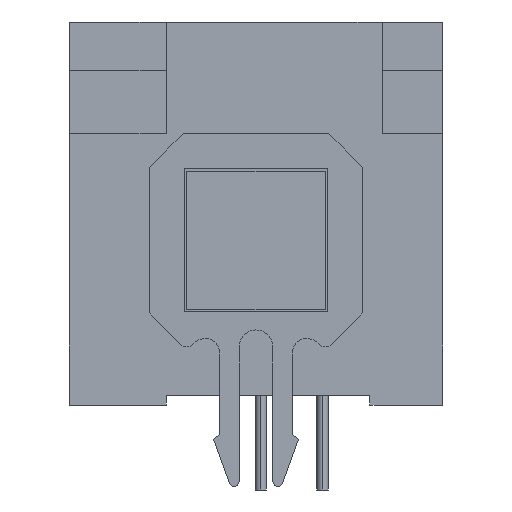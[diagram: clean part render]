
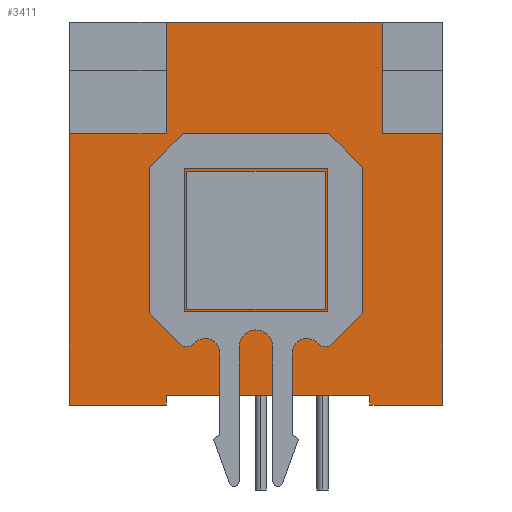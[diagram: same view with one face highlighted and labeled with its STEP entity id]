
A CAD part, left-side view. The second image highlights one B-rep face of the part: STEP entity #3411.
In plain terms, the highlighted planar face has unit normal (-1, 0, 0).
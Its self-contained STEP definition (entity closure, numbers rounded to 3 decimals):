
#29=DIRECTION('',(0.,0.,1.));
#30=VECTOR('',#29,11.2);
#31=CARTESIAN_POINT('',(-6.5,-7.7,-7.8));
#32=LINE('',#31,#30);
#121=DIRECTION('',(0.,-1.,0.));
#122=VECTOR('',#121,4.);
#123=CARTESIAN_POINT('',(-6.5,7.7,-7.8));
#124=LINE('',#123,#122);
#169=DIRECTION('',(0.,-1.,0.));
#170=VECTOR('',#169,3.);
#171=CARTESIAN_POINT('',(-6.5,-4.7,-7.8));
#172=LINE('',#171,#170);
#189=DIRECTION('',(0.,1.,0.));
#190=VECTOR('',#189,8.4);
#191=CARTESIAN_POINT('',(-6.5,-4.7,-7.4));
#192=LINE('',#191,#190);
#193=DIRECTION('',(0.,0.,1.));
#194=VECTOR('',#193,0.4);
#195=CARTESIAN_POINT('',(-6.5,3.7,-7.8));
#196=LINE('',#195,#194);
#197=DIRECTION('',(0.,-1.,0.));
#198=VECTOR('',#197,4.);
#199=CARTESIAN_POINT('',(-6.5,7.7,3.4));
#200=LINE('',#199,#198);
#201=DIRECTION('',(0.,0.,1.));
#202=VECTOR('',#201,4.6);
#203=CARTESIAN_POINT('',(-6.5,3.7,3.4));
#204=LINE('',#203,#202);
#205=DIRECTION('',(0.,0.,-1.));
#206=VECTOR('',#205,4.6);
#207=CARTESIAN_POINT('',(-6.5,-5.2,8.));
#208=LINE('',#207,#206);
#209=DIRECTION('',(0.,-1.,0.));
#210=VECTOR('',#209,2.5);
#211=CARTESIAN_POINT('',(-6.5,-5.2,3.4));
#212=LINE('',#211,#210);
#213=DIRECTION('',(0.,0.,1.));
#214=VECTOR('',#213,0.4);
#215=CARTESIAN_POINT('',(-6.5,-4.7,-7.8));
#216=LINE('',#215,#214);
#225=DIRECTION('',(0.,-1.,0.));
#226=VECTOR('',#225,5.7);
#227=CARTESIAN_POINT('',(-6.5,2.85,1.85));
#228=LINE('',#227,#226);
#229=DIRECTION('',(0.,0.,-1.));
#230=VECTOR('',#229,5.7);
#231=CARTESIAN_POINT('',(-6.5,-2.85,1.85));
#232=LINE('',#231,#230);
#237=DIRECTION('',(0.,1.,0.));
#238=VECTOR('',#237,5.7);
#239=CARTESIAN_POINT('',(-6.5,-2.85,-3.85));
#240=LINE('',#239,#238);
#245=DIRECTION('',(0.,0.,1.));
#246=VECTOR('',#245,5.7);
#247=CARTESIAN_POINT('',(-6.5,2.85,-3.85));
#248=LINE('',#247,#246);
#921=DIRECTION('',(0.,1.,0.));
#922=VECTOR('',#921,8.9);
#923=CARTESIAN_POINT('',(-6.5,-5.2,8.));
#924=LINE('',#923,#922);
#969=DIRECTION('',(0.,0.,-1.));
#970=VECTOR('',#969,11.2);
#971=CARTESIAN_POINT('',(-6.5,7.7,3.4));
#972=LINE('',#971,#970);
#2855=CARTESIAN_POINT('',(-6.5,-7.7,-7.8));
#2856=CARTESIAN_POINT('',(-6.5,-7.7,3.4));
#2857=VERTEX_POINT('',#2855);
#2858=VERTEX_POINT('',#2856);
#2859=CARTESIAN_POINT('',(-6.5,-5.2,8.));
#2860=CARTESIAN_POINT('',(-6.5,3.7,8.));
#2861=VERTEX_POINT('',#2859);
#2862=VERTEX_POINT('',#2860);
#2863=CARTESIAN_POINT('',(-6.5,7.7,3.4));
#2864=CARTESIAN_POINT('',(-6.5,7.7,-7.8));
#2865=VERTEX_POINT('',#2863);
#2866=VERTEX_POINT('',#2864);
#2867=CARTESIAN_POINT('',(-6.5,3.7,3.4));
#2868=VERTEX_POINT('',#2867);
#2869=CARTESIAN_POINT('',(-6.5,-5.2,3.4));
#2870=VERTEX_POINT('',#2869);
#2895=CARTESIAN_POINT('',(-6.5,2.85,-3.85));
#2896=CARTESIAN_POINT('',(-6.5,2.85,1.85));
#2897=VERTEX_POINT('',#2895);
#2898=VERTEX_POINT('',#2896);
#2899=CARTESIAN_POINT('',(-6.5,-2.85,1.85));
#2900=CARTESIAN_POINT('',(-6.5,-2.85,-3.85));
#2901=VERTEX_POINT('',#2899);
#2902=VERTEX_POINT('',#2900);
#3031=CARTESIAN_POINT('',(-6.5,3.7,-7.8));
#3033=VERTEX_POINT('',#3031);
#3049=CARTESIAN_POINT('',(-6.5,-4.7,-7.4));
#3050=CARTESIAN_POINT('',(-6.5,3.7,-7.4));
#3051=VERTEX_POINT('',#3049);
#3052=VERTEX_POINT('',#3050);
#3053=CARTESIAN_POINT('',(-6.5,-4.7,-7.8));
#3054=VERTEX_POINT('',#3053);
#3374=CARTESIAN_POINT('',(-6.5,0.,0.));
#3375=DIRECTION('',(1.,0.,0.));
#3376=DIRECTION('',(0.,1.,0.));
#3377=AXIS2_PLACEMENT_3D('',#3374,#3375,#3376);
#3378=PLANE('',#3377);
#3380=ORIENTED_EDGE('',*,*,#3379,.T.);
#3381=ORIENTED_EDGE('',*,*,#3335,.F.);
#3382=ORIENTED_EDGE('',*,*,#3248,.F.);
#3384=ORIENTED_EDGE('',*,*,#3383,.F.);
#3386=ORIENTED_EDGE('',*,*,#3385,.T.);
#3388=ORIENTED_EDGE('',*,*,#3387,.T.);
#3390=ORIENTED_EDGE('',*,*,#3389,.F.);
#3392=ORIENTED_EDGE('',*,*,#3391,.T.);
#3394=ORIENTED_EDGE('',*,*,#3393,.T.);
#3395=ORIENTED_EDGE('',*,*,#3156,.F.);
#3396=ORIENTED_EDGE('',*,*,#3308,.F.);
#3398=ORIENTED_EDGE('',*,*,#3397,.T.);
#3399=EDGE_LOOP('',(#3380,#3381,#3382,#3384,#3386,#3388,#3390,#3392,#3394,#3395,
#3396,#3398));
#3400=FACE_OUTER_BOUND('',#3399,.F.);
#3402=ORIENTED_EDGE('',*,*,#3401,.F.);
#3404=ORIENTED_EDGE('',*,*,#3403,.F.);
#3406=ORIENTED_EDGE('',*,*,#3405,.F.);
#3408=ORIENTED_EDGE('',*,*,#3407,.F.);
#3409=EDGE_LOOP('',(#3402,#3404,#3406,#3408));
#3410=FACE_BOUND('',#3409,.F.);
#3411=ADVANCED_FACE('',(#3400,#3410),#3378,.F.);
#3156=EDGE_CURVE('',#2857,#2858,#32,.T.);
#3248=EDGE_CURVE('',#2866,#3033,#124,.T.);
#3308=EDGE_CURVE('',#3054,#2857,#172,.T.);
#3335=EDGE_CURVE('',#3033,#3052,#196,.T.);
#3379=EDGE_CURVE('',#3051,#3052,#192,.T.);
#3383=EDGE_CURVE('',#2865,#2866,#972,.T.);
#3385=EDGE_CURVE('',#2865,#2868,#200,.T.);
#3387=EDGE_CURVE('',#2868,#2862,#204,.T.);
#3389=EDGE_CURVE('',#2861,#2862,#924,.T.);
#3391=EDGE_CURVE('',#2861,#2870,#208,.T.);
#3393=EDGE_CURVE('',#2870,#2858,#212,.T.);
#3397=EDGE_CURVE('',#3054,#3051,#216,.T.);
#3401=EDGE_CURVE('',#2898,#2901,#228,.T.);
#3403=EDGE_CURVE('',#2897,#2898,#248,.T.);
#3405=EDGE_CURVE('',#2902,#2897,#240,.T.);
#3407=EDGE_CURVE('',#2901,#2902,#232,.T.);
